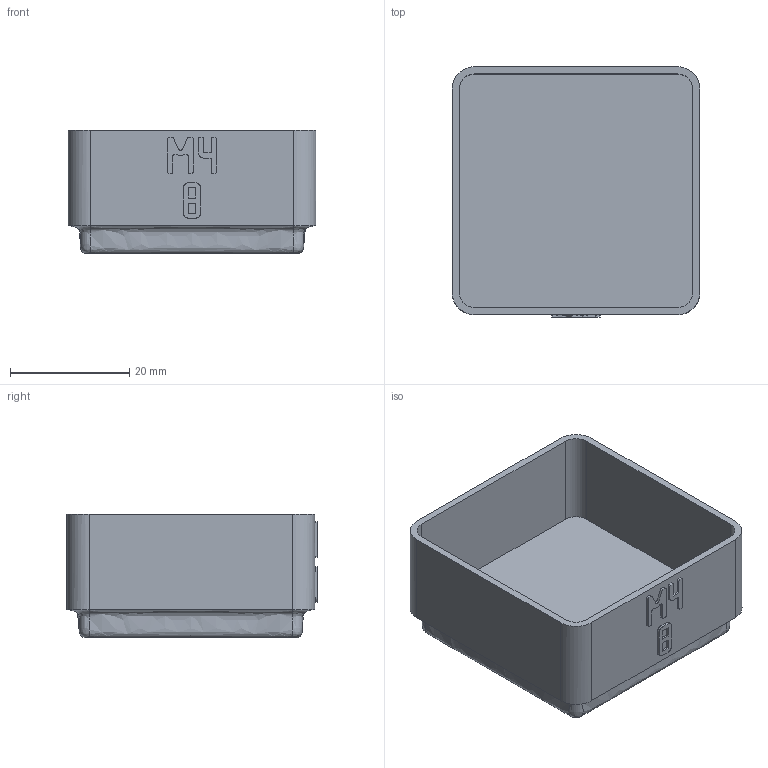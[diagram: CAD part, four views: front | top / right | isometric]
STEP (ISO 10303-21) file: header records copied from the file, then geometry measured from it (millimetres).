
FILE_DESCRIPTION(('Open CASCADE Model'),'2;1');
FILE_NAME('Open CASCADE Shape Model','2026-11-03T15:27:37',('Author'),( 'Open CASCADE'),'Open CASCADE STEP processor 8.0','build123d', 'Unknown');
FILE_SCHEMA(('AUTOMOTIVE_DESIGN { 1 0 10303 214 1 1 1 1 }'));
Length unit declared in the file: millimetre
Products named in the file (1): COMPOUND
Bounding box: 41.5 x 41.9 x 20.75 mm (x, y, z)
Volume: 9641.2 mm3; surface area: 8967.8 mm2
Topology: 1 solids, 1 shells, 298 faces, 862 edges, 572 vertices
Faces by surface type: plane 282, bspline 8, cylinder 8
Entity records: 20706 total; most frequent: CARTESIAN_POINT 4577, DIRECTION 2592, LINE 1982, VECTOR 1982, ORIENTED_EDGE 1724, PCURVE 1724, DEFINITIONAL_REPRESENTATION 1724, EDGE_CURVE 862
